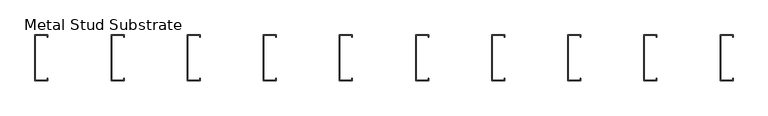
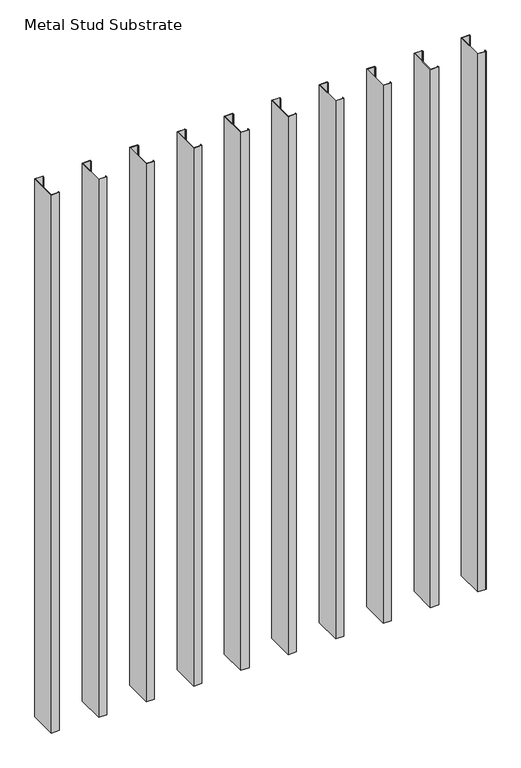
"""IFC4 building model written with IfcOpenShell, lengths in millimetres: fastener geometry, Structural-Supporting-Components_Advanced-Architectural-Products_Metal-Stud-Substrate : Metal Stud Substrate."""

from ifc_helpers import new_model, si_unit, origin, origin_with_axes, place, context, project, spatial, polyline, outline, extrude, source, transform, mapped, element, save


def metal_stud_substrate_e28d9b51(model_context):
    return source(origin(), model_context, "Body", "SweptSolid", [
        extrude(outline(polyline([(2336.8, 0.0), (2380.45625, 0.0), (2380.45625, -8.334375), (2378.7695313, -8.334375), (2378.7695313, -1.6867188), (2338.4867188, -1.6867188), (2338.4867188, -150.7132813), (2378.7695313, -150.7132813), (2378.7695313, -144.065625), (2380.45625, -144.065625), (2380.45625, -152.4), (2336.8, -152.4), (2336.8, 0.0)])), origin_with_axes(), (0.0, 0.0, 1.0), 3048.0),
        extrude(outline(polyline([(2082.8, 0.0), (2126.45625, 0.0), (2126.45625, -8.334375), (2124.7695313, -8.334375), (2124.7695313, -1.6867188), (2084.4867188, -1.6867188), (2084.4867188, -150.7132813), (2124.7695313, -150.7132813), (2124.7695313, -144.065625), (2126.45625, -144.065625), (2126.45625, -152.4), (2082.8, -152.4), (2082.8, 0.0)])), origin_with_axes(), (0.0, 0.0, 1.0), 3048.0),
        extrude(outline(polyline([(1828.8, 0.0), (1872.45625, 0.0), (1872.45625, -8.334375), (1870.7695313, -8.334375), (1870.7695313, -1.6867188), (1830.4867188, -1.6867188), (1830.4867188, -150.7132813), (1870.7695313, -150.7132813), (1870.7695313, -144.065625), (1872.45625, -144.065625), (1872.45625, -152.4), (1828.8, -152.4), (1828.8, 0.0)])), origin_with_axes(), (0.0, 0.0, 1.0), 3048.0),
        extrude(outline(polyline([(1574.8, 0.0), (1618.45625, 0.0), (1618.45625, -8.334375), (1616.7695313, -8.334375), (1616.7695313, -1.6867188), (1576.4867188, -1.6867188), (1576.4867188, -150.7132813), (1616.7695313, -150.7132813), (1616.7695313, -144.065625), (1618.45625, -144.065625), (1618.45625, -152.4), (1574.8, -152.4), (1574.8, 0.0)])), origin_with_axes(), (0.0, 0.0, 1.0), 3048.0),
        extrude(outline(polyline([(1320.8, 0.0), (1364.45625, 0.0), (1364.45625, -8.334375), (1362.7695313, -8.334375), (1362.7695313, -1.6867188), (1322.4867188, -1.6867188), (1322.4867188, -150.7132813), (1362.7695313, -150.7132813), (1362.7695313, -144.065625), (1364.45625, -144.065625), (1364.45625, -152.4), (1320.8, -152.4), (1320.8, 0.0)])), origin_with_axes(), (0.0, 0.0, 1.0), 3048.0),
        extrude(outline(polyline([(1066.8, 0.0), (1110.45625, 0.0), (1110.45625, -8.334375), (1108.7695313, -8.334375), (1108.7695313, -1.6867188), (1068.4867188, -1.6867188), (1068.4867188, -150.7132813), (1108.7695313, -150.7132813), (1108.7695313, -144.065625), (1110.45625, -144.065625), (1110.45625, -152.4), (1066.8, -152.4), (1066.8, 0.0)])), origin_with_axes(), (0.0, 0.0, 1.0), 3048.0),
        extrude(outline(polyline([(812.8, 0.0), (856.45625, 0.0), (856.45625, -8.334375), (854.7695313, -8.334375), (854.7695313, -1.6867188), (814.4867188, -1.6867188), (814.4867188, -150.7132813), (854.7695313, -150.7132813), (854.7695313, -144.065625), (856.45625, -144.065625), (856.45625, -152.4), (812.8, -152.4), (812.8, 0.0)])), origin_with_axes(), (0.0, 0.0, 1.0), 3048.0),
        extrude(outline(polyline([(558.8, 0.0), (602.45625, 0.0), (602.45625, -8.334375), (600.7695313, -8.334375), (600.7695313, -1.6867188), (560.4867188, -1.6867188), (560.4867188, -150.7132813), (600.7695313, -150.7132813), (600.7695313, -144.065625), (602.45625, -144.065625), (602.45625, -152.4), (558.8, -152.4), (558.8, 0.0)])), origin_with_axes(), (0.0, 0.0, 1.0), 3048.0),
        extrude(outline(polyline([(304.8, 0.0), (348.45625, 0.0), (348.45625, -8.334375), (346.7695313, -8.334375), (346.7695313, -1.6867188), (306.4867188, -1.6867188), (306.4867188, -150.7132813), (346.7695313, -150.7132813), (346.7695313, -144.065625), (348.45625, -144.065625), (348.45625, -152.4), (304.8, -152.4), (304.8, 0.0)])), origin_with_axes(), (0.0, 0.0, 1.0), 3048.0),
        extrude(outline(polyline([(50.8, 0.0), (94.45625, 0.0), (94.45625, -8.334375), (92.7695313, -8.334375), (92.7695313, -1.6867188), (52.4867188, -1.6867188), (52.4867188, -150.7132813), (92.7695313, -150.7132813), (92.7695313, -144.065625), (94.45625, -144.065625), (94.45625, -152.4), (50.8, -152.4), (50.8, 0.0)])), origin_with_axes(), (0.0, 0.0, 1.0), 3048.0),
    ])


if __name__ == "__main__":
    model = new_model("IFC4")
    model_context = context("Model", 3, world=origin())
    ifc_project = project(units=[si_unit("LENGTHUNIT", "METRE", prefix="MILLI")], contexts=[model_context])
    site = spatial("IfcSite", under=ifc_project)
    building = spatial("IfcBuilding", under=site)
    placement = place(None, origin())
    metal_stud_substrate_shape = metal_stud_substrate_e28d9b51(model_context)
    element("IfcFastener", 1, ObjectType="Structural-Supporting-Components_Advanced-Architectural-Products_Metal-Stud-Substrate : Metal Stud Substrate", at=placement, inside=building, context=model_context, shape_type="MappedRepresentation", body=[
        mapped(metal_stud_substrate_shape, transform((0.0, 0.0, 0.0), x_axis=(1.0, 0.0, 0.0), y_axis=(0.0, 1.0, 0.0), z_axis=(0.0, 0.0, 1.0))),
    ])
    save(model, "model.ifc")
